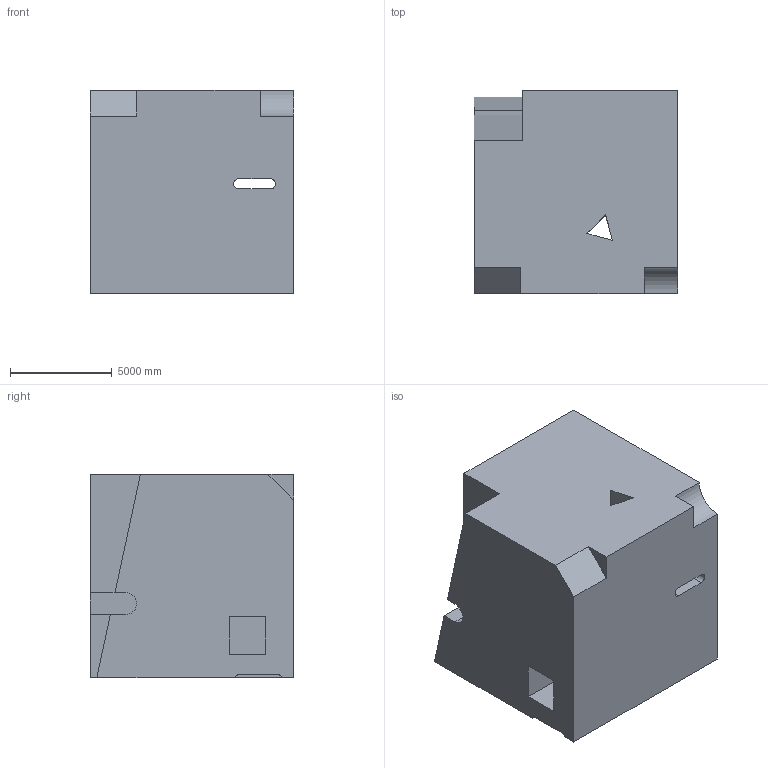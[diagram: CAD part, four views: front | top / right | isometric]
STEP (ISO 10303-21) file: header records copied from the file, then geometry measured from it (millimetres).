
FILE_DESCRIPTION (( 'STEP AP203' ), '1' );
FILE_NAME ('196.STEP', '2022-09-06T12:43:13', ( 'user' ), ( '' ), 'SwSTEP 2.0', 'SolidWorks 2021', '' );
FILE_SCHEMA (( 'CONFIG_CONTROL_DESIGN' ));
Length unit declared in the file: centimetre
Products named in the file (1): 196
Bounding box: 10000 x 10000 x 10000 mm (x, y, z)
Volume: 915426149875.3 mm3; surface area: 744882134.1 mm2
Topology: 1 solids, 1 shells, 45 faces, 132 edges, 88 vertices
Faces by surface type: plane 39, cylinder 6
Entity records: 1567 total; most frequent: CARTESIAN_POINT 266, ORIENTED_EDGE 264, DIRECTION 236, EDGE_CURVE 132, LINE 120, VECTOR 120, VERTEX_POINT 88, AXIS2_PLACEMENT_3D 58
